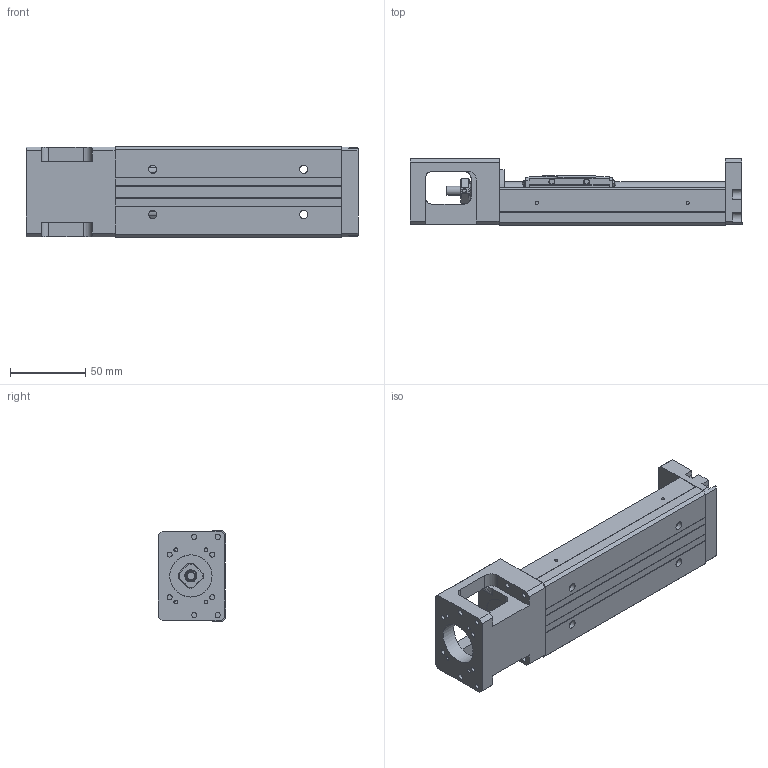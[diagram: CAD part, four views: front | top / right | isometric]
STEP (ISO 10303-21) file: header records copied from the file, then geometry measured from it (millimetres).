
FILE_DESCRIPTION(/* description */ (''),/* implementation_level */ '2;1');
FILE_NAME(/* name */ 'KP33S-150.stp',/* time_stamp */ '2020-06-04T17:38:33+08:00',/* author */ (''),/* organization */ (''),/* preprocessor_version */ 'ST-DEVELOPER v14',/* originating_system */ 'SIEMENS PLM Software NX 8.0',/* authorisation */ '');
FILE_SCHEMA (('AUTOMOTIVE_DESIGN { 1 0 10303 214 3 1 1 1 }'));
Length unit declared in the file: millimetre
Products named in the file (1): model1
Bounding box: 220 x 44.45 x 60 mm (x, y, z)
Volume: 295059.1 mm3; surface area: 84910.1 mm2
Topology: 5 solids, 10 shells, 583 faces, 1505 edges, 990 vertices
Faces by surface type: plane 346, cylinder 152, bspline 31, cone 22, extrusion 21, torus 9, revolution 2
Full cylindrical faces by diameter (mm): 1.6 x2, 1.65 x4, 2.15 x2, 2.42 x4, 2.45 x4, 2.5 x4, 3.2 x4, 3.3 x4, 3.4 x4, 3.5 x10, 3.969 x1, 4 x4, 4.001 x1, 4.135 x2, 5.5 x4, 6 x5, 7.6 x1, 8 x5, 9.5 x4, 10.72 x3, 11.8 x2, 12 x1, 12.8 x1, 13 x2, 14 x1, 17.38 x3, 21.5 x1, 22 x2, 28 x1
Entity records: 32368 total; most frequent: CARTESIAN_POINT 15784, DIRECTION 2668, ORIENTED_EDGE 2652, EDGE_CURVE 1326, VERTEX_POINT 929, AXIS2_PLACEMENT_3D 921, VECTOR 824, EDGE_LOOP 813
